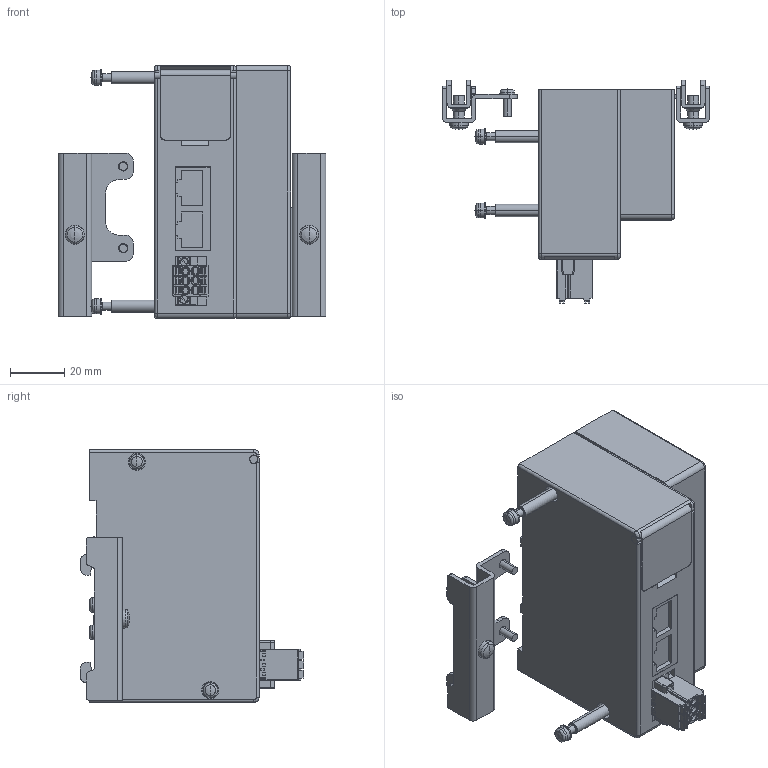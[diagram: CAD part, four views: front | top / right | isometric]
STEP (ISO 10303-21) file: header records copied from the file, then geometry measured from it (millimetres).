
FILE_DESCRIPTION( (''), '2;1');
FILE_NAME ('YS8EM3-1-DN.stp','2022-12-01T14:41:15',(''),(''),'spGate 12.6.6','','');
FILE_SCHEMA (('AUTOMOTIVE_DESIGN'));
Length unit declared in the file: millimetre
Products named in the file (3): Assembly; YS8EM3-1-DN-prt0; YS8EM3-1-DN-prt1
Assembly tree (3 placements, depth 2):
  Assembly
    YS8EM3-1-DN-prt0
    YS8EM3-1-DN-prt1  x2
Bounding box: 98.5 x 82.1 x 93 mm (x, y, z)
Volume: 264270.3 mm3; surface area: 45672.5 mm2
Topology: 3 solids, 3 shells, 971 faces, 2541 edges, 1629 vertices
Faces by surface type: plane 563, cylinder 310, bspline 82, sphere 16
Entity records: 43962 total; most frequent: CARTESIAN_POINT 6025, ORIENTED_EDGE 4360, DIRECTION 4124, COLOUR_RGB 3022, PRESENTATION_STYLE_ASSIGNMENT 3022, STYLED_ITEM 3022, EDGE_CURVE 2180, DRAUGHTING_PRE_DEFINED_CURVE_FONT 2180
